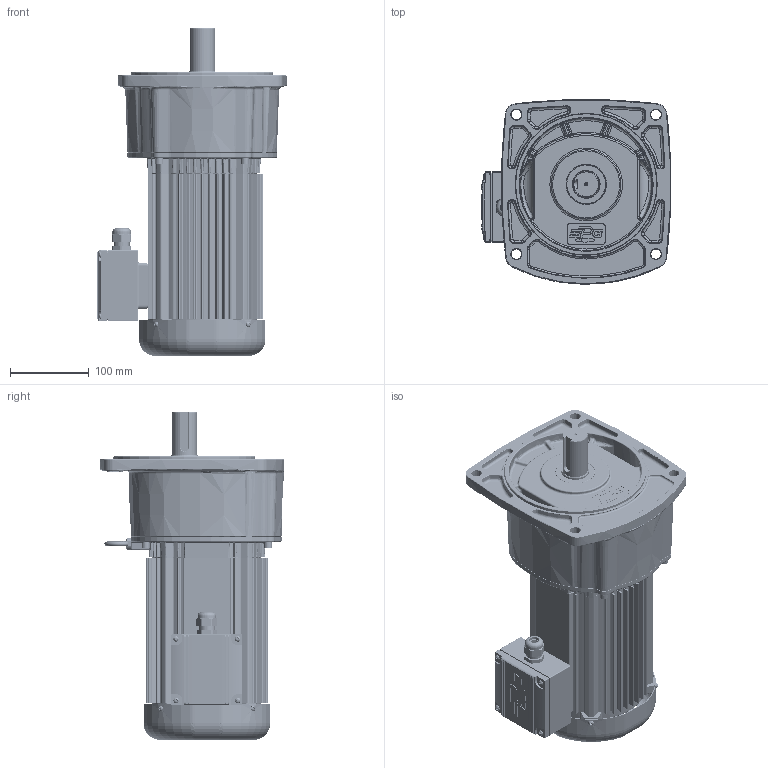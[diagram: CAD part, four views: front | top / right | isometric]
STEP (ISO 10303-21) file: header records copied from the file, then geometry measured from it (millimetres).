
FILE_DESCRIPTION(/* description */ (''),/* implementation_level */ '2;1');
FILE_NAME(/* name */ 'Z:\동력 3D 파일\PAF32_0.75kW_3D.stp',/* time_stamp */ '2021-11-08T15:38:02+09:00',/* author */ ('jaebok'),/* organization */ (''),/* preprocessor_version */ 'ST-DEVELOPER v18.1',/* originating_system */ 'Autodesk Inventor 2022',/* authorisation */ '');
FILE_SCHEMA (('AUTOMOTIVE_DESIGN { 1 0 10303 214 3 1 1 }'));
Products named in the file (1): 부품15
Bounding box: 240.18 x 233.68 x 415.5 mm (x, y, z)
Volume: 2597891.8 mm3; surface area: 810271.6 mm2
Topology: 2 solids, 29 shells, 4078 faces, 10192 edges, 5980 vertices
Faces by surface type: bspline 1173, plane 1109, cylinder 1038, torus 394, cone 216, sphere 148
Full cylindrical faces by diameter (mm): 2 x1, 3.25 x1, 3.5 x4, 3.6 x4, 4 x22, 4.917 x4, 5 x21, 6 x8, 6.647 x1, 6.8 x4, 7 x13, 8 x5, 9.5 x4, 10 x5, 12.5 x1, 15 x1, 18 x1, 20 x2, 20.6 x1, 21 x2, 22 x1, 23.6 x1, 25 x1, 28 x1, 30 x2, 32 x2, 34.6 x1, 35 x5, 37 x1, 40 x1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
Entity records: 167801 total; most frequent: CARTESIAN_POINT 75412, ORIENTED_EDGE 19798, DIRECTION 17065, EDGE_CURVE 9899, AXIS2_PLACEMENT_3D 6992, VERTEX_POINT 5980, EDGE_LOOP 4297, FACE_OUTER_BOUND 4078
